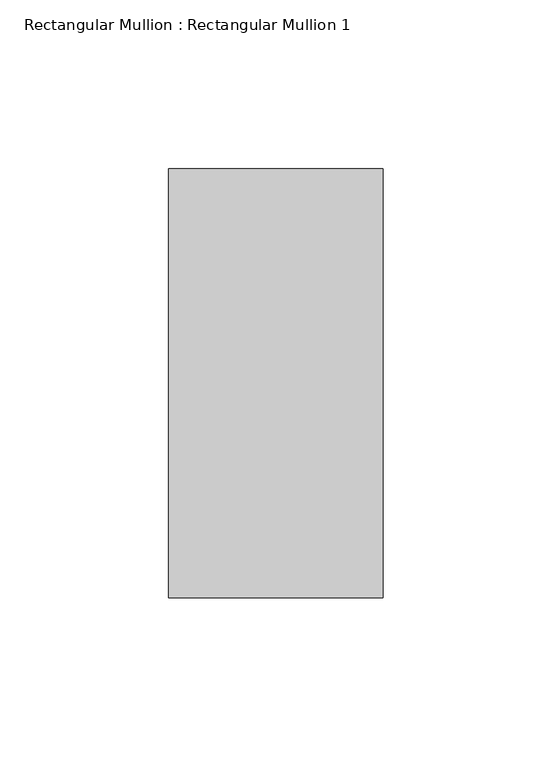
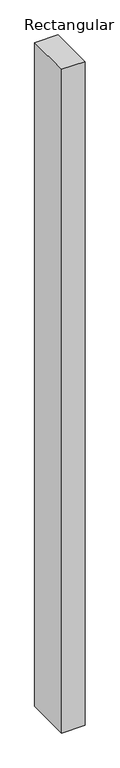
"""IFC4 building model written with IfcOpenShell, lengths in millimetres: member geometry, Rectangular Mullion : Rectangular Mullion 1."""

from ifc_helpers import new_model, si_unit, frame, origin, place, context, project, spatial, polyline, outline, extrude, source, transform, mapped, element, save


def rectangular_mullion_rectangular_mullion_1_45be0f26(model_context):
    return source(origin(), model_context, "Body", "SweptSolid", [
        extrude(outline(polyline([(0.0, 63.5), (0.0, -63.5), (-63.5, -63.5), (-63.5, 63.5), (0.0, 63.5)])), frame((0.0, 0.0, -1904.75), z_axis=(0.0, 0.0, 1.0), x_axis=(1.0, 0.0, 0.0)), (0.0, 0.0, 1.0), 1904.75),
    ])


if __name__ == "__main__":
    model = new_model("IFC4")
    model_context = context("Model", 3, world=origin())
    ifc_project = project(units=[si_unit("LENGTHUNIT", "METRE", prefix="MILLI")], contexts=[model_context])
    site = spatial("IfcSite", under=ifc_project)
    building = spatial("IfcBuilding", under=site)
    placement = place(None, origin())
    rectangular_mullion_rectangular_mullion_1_shape = rectangular_mullion_rectangular_mullion_1_45be0f26(model_context)
    element("IfcMember", 1, ObjectType="Rectangular Mullion : Rectangular Mullion 1", at=placement, inside=building, context=model_context, shape_type="MappedRepresentation", body=[
        mapped(rectangular_mullion_rectangular_mullion_1_shape, transform((0.0, 0.0, 0.0), x_axis=(1.0, 0.0, 0.0), y_axis=(0.0, 1.0, 0.0), z_axis=(0.0, 0.0, 1.0))),
    ])
    save(model, "model.ifc")
